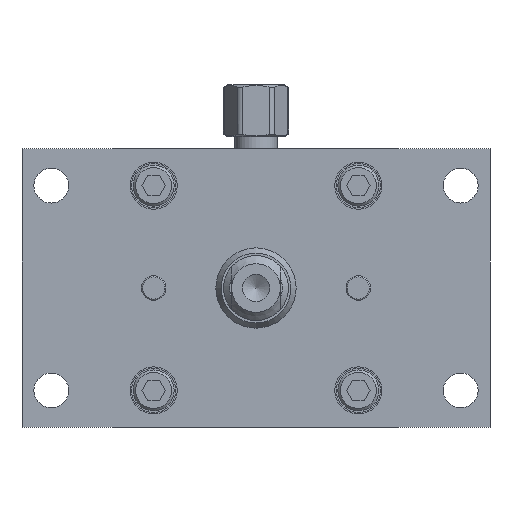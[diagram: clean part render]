
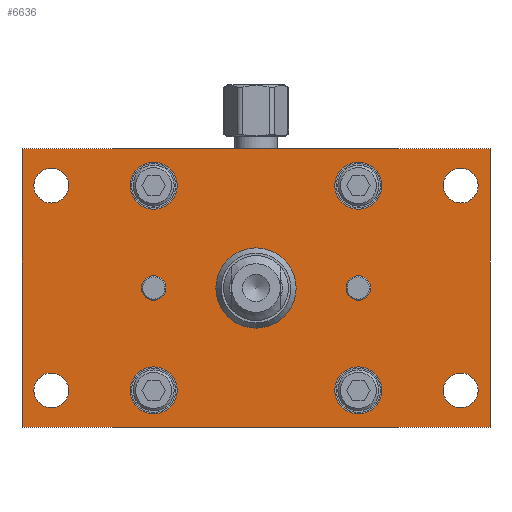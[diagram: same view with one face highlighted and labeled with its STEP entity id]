
A CAD part, front view. The second image highlights one B-rep face of the part: STEP entity #6636.
In plain terms, the highlighted planar face has unit normal (0, -1, 0) as drawn and (0, 0, -1) by its records, which use the part's own axes.
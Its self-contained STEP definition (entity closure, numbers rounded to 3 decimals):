
#196=FACE_BOUND('',#2335,.T.);
#197=FACE_BOUND('',#2336,.T.);
#198=FACE_BOUND('',#2337,.T.);
#199=FACE_BOUND('',#2338,.T.);
#200=FACE_BOUND('',#2339,.T.);
#201=FACE_BOUND('',#2340,.T.);
#202=FACE_BOUND('',#2341,.T.);
#203=FACE_BOUND('',#2342,.T.);
#204=FACE_BOUND('',#2343,.T.);
#205=FACE_BOUND('',#2344,.T.);
#206=FACE_BOUND('',#2345,.T.);
#562=PLANE('',#7546);
#966=LINE('',#11415,#1454);
#969=LINE('',#11420,#1457);
#971=LINE('',#11424,#1459);
#973=LINE('',#11427,#1461);
#1454=VECTOR('',#9154,10.);
#1457=VECTOR('',#9159,10.);
#1459=VECTOR('',#9163,10.);
#1461=VECTOR('',#9167,10.);
#1938=FACE_OUTER_BOUND('',#2334,.T.);
#2334=EDGE_LOOP('',(#5719,#5720,#5721,#5722));
#2335=EDGE_LOOP('',(#5723));
#2336=EDGE_LOOP('',(#5724,#5725));
#2337=EDGE_LOOP('',(#5726,#5727));
#2338=EDGE_LOOP('',(#5728,#5729));
#2339=EDGE_LOOP('',(#5730,#5731));
#2340=EDGE_LOOP('',(#5732,#5733));
#2341=EDGE_LOOP('',(#5734,#5735));
#2342=EDGE_LOOP('',(#5736,#5737));
#2343=EDGE_LOOP('',(#5738,#5739));
#2344=EDGE_LOOP('',(#5740,#5741));
#2345=EDGE_LOOP('',(#5742,#5743));
#2664=CIRCLE('',#7436,9.804);
#2701=CIRCLE('',#7487,3.);
#2702=CIRCLE('',#7488,3.);
#2703=CIRCLE('',#7490,3.);
#2704=CIRCLE('',#7491,3.);
#2705=CIRCLE('',#7493,4.25);
#2706=CIRCLE('',#7494,4.25);
#2707=CIRCLE('',#7496,4.25);
#2708=CIRCLE('',#7497,4.25);
#2709=CIRCLE('',#7499,4.25);
#2710=CIRCLE('',#7500,4.25);
#2711=CIRCLE('',#7502,4.25);
#2712=CIRCLE('',#7503,4.25);
#2718=CIRCLE('',#7514,5.75);
#2719=CIRCLE('',#7515,5.75);
#2723=CIRCLE('',#7522,5.75);
#2724=CIRCLE('',#7523,5.75);
#2728=CIRCLE('',#7530,5.75);
#2729=CIRCLE('',#7531,5.75);
#2733=CIRCLE('',#7538,5.75);
#2734=CIRCLE('',#7539,5.75);
#3254=VERTEX_POINT('',#11208);
#3293=VERTEX_POINT('',#11308);
#3294=VERTEX_POINT('',#11309);
#3295=VERTEX_POINT('',#11314);
#3296=VERTEX_POINT('',#11315);
#3297=VERTEX_POINT('',#11320);
#3298=VERTEX_POINT('',#11321);
#3299=VERTEX_POINT('',#11326);
#3300=VERTEX_POINT('',#11327);
#3301=VERTEX_POINT('',#11332);
#3302=VERTEX_POINT('',#11333);
#3303=VERTEX_POINT('',#11338);
#3304=VERTEX_POINT('',#11339);
#3310=VERTEX_POINT('',#11360);
#3311=VERTEX_POINT('',#11361);
#3315=VERTEX_POINT('',#11375);
#3316=VERTEX_POINT('',#11376);
#3320=VERTEX_POINT('',#11390);
#3321=VERTEX_POINT('',#11391);
#3325=VERTEX_POINT('',#11405);
#3326=VERTEX_POINT('',#11406);
#3327=VERTEX_POINT('',#11413);
#3328=VERTEX_POINT('',#11414);
#3329=VERTEX_POINT('',#11419);
#3330=VERTEX_POINT('',#11423);
#4083=EDGE_CURVE('',#3254,#3254,#2664,.T.);
#4130=EDGE_CURVE('',#3293,#3294,#2701,.T.);
#4131=EDGE_CURVE('',#3294,#3293,#2702,.T.);
#4133=EDGE_CURVE('',#3295,#3296,#2703,.T.);
#4134=EDGE_CURVE('',#3296,#3295,#2704,.T.);
#4136=EDGE_CURVE('',#3297,#3298,#2705,.T.);
#4137=EDGE_CURVE('',#3298,#3297,#2706,.T.);
#4139=EDGE_CURVE('',#3299,#3300,#2707,.T.);
#4140=EDGE_CURVE('',#3300,#3299,#2708,.T.);
#4142=EDGE_CURVE('',#3301,#3302,#2709,.T.);
#4143=EDGE_CURVE('',#3302,#3301,#2710,.T.);
#4145=EDGE_CURVE('',#3303,#3304,#2711,.T.);
#4146=EDGE_CURVE('',#3304,#3303,#2712,.T.);
#4155=EDGE_CURVE('',#3310,#3311,#2718,.T.);
#4156=EDGE_CURVE('',#3311,#3310,#2719,.T.);
#4162=EDGE_CURVE('',#3315,#3316,#2723,.T.);
#4163=EDGE_CURVE('',#3316,#3315,#2724,.T.);
#4169=EDGE_CURVE('',#3320,#3321,#2728,.T.);
#4170=EDGE_CURVE('',#3321,#3320,#2729,.T.);
#4176=EDGE_CURVE('',#3325,#3326,#2733,.T.);
#4177=EDGE_CURVE('',#3326,#3325,#2734,.T.);
#4180=EDGE_CURVE('',#3327,#3328,#966,.T.);
#4183=EDGE_CURVE('',#3329,#3327,#969,.T.);
#4185=EDGE_CURVE('',#3330,#3329,#971,.T.);
#4187=EDGE_CURVE('',#3328,#3330,#973,.T.);
#5719=ORIENTED_EDGE('',*,*,#4187,.F.);
#5720=ORIENTED_EDGE('',*,*,#4180,.F.);
#5721=ORIENTED_EDGE('',*,*,#4183,.F.);
#5722=ORIENTED_EDGE('',*,*,#4185,.F.);
#5723=ORIENTED_EDGE('',*,*,#4083,.T.);
#5724=ORIENTED_EDGE('',*,*,#4130,.T.);
#5725=ORIENTED_EDGE('',*,*,#4131,.T.);
#5726=ORIENTED_EDGE('',*,*,#4133,.T.);
#5727=ORIENTED_EDGE('',*,*,#4134,.T.);
#5728=ORIENTED_EDGE('',*,*,#4136,.T.);
#5729=ORIENTED_EDGE('',*,*,#4137,.T.);
#5730=ORIENTED_EDGE('',*,*,#4139,.T.);
#5731=ORIENTED_EDGE('',*,*,#4140,.T.);
#5732=ORIENTED_EDGE('',*,*,#4142,.T.);
#5733=ORIENTED_EDGE('',*,*,#4143,.T.);
#5734=ORIENTED_EDGE('',*,*,#4145,.T.);
#5735=ORIENTED_EDGE('',*,*,#4146,.T.);
#5736=ORIENTED_EDGE('',*,*,#4155,.T.);
#5737=ORIENTED_EDGE('',*,*,#4156,.T.);
#5738=ORIENTED_EDGE('',*,*,#4162,.T.);
#5739=ORIENTED_EDGE('',*,*,#4163,.T.);
#5740=ORIENTED_EDGE('',*,*,#4169,.T.);
#5741=ORIENTED_EDGE('',*,*,#4170,.T.);
#5742=ORIENTED_EDGE('',*,*,#4176,.T.);
#5743=ORIENTED_EDGE('',*,*,#4177,.T.);
#6636=ADVANCED_FACE('',(#1938,#196,#197,#198,#199,#200,#201,#202,#203,#204,
#205,#206),#562,.F.);
#7436=AXIS2_PLACEMENT_3D('',#11209,#8916,#8917);
#7487=AXIS2_PLACEMENT_3D('',#11310,#9028,#9029);
#7488=AXIS2_PLACEMENT_3D('',#11311,#9030,#9031);
#7490=AXIS2_PLACEMENT_3D('',#11316,#9035,#9036);
#7491=AXIS2_PLACEMENT_3D('',#11317,#9037,#9038);
#7493=AXIS2_PLACEMENT_3D('',#11322,#9042,#9043);
#7494=AXIS2_PLACEMENT_3D('',#11323,#9044,#9045);
#7496=AXIS2_PLACEMENT_3D('',#11328,#9049,#9050);
#7497=AXIS2_PLACEMENT_3D('',#11329,#9051,#9052);
#7499=AXIS2_PLACEMENT_3D('',#11334,#9056,#9057);
#7500=AXIS2_PLACEMENT_3D('',#11335,#9058,#9059);
#7502=AXIS2_PLACEMENT_3D('',#11340,#9063,#9064);
#7503=AXIS2_PLACEMENT_3D('',#11341,#9065,#9066);
#7514=AXIS2_PLACEMENT_3D('',#11362,#9090,#9091);
#7515=AXIS2_PLACEMENT_3D('',#11363,#9092,#9093);
#7522=AXIS2_PLACEMENT_3D('',#11377,#9108,#9109);
#7523=AXIS2_PLACEMENT_3D('',#11378,#9110,#9111);
#7530=AXIS2_PLACEMENT_3D('',#11392,#9126,#9127);
#7531=AXIS2_PLACEMENT_3D('',#11393,#9128,#9129);
#7538=AXIS2_PLACEMENT_3D('',#11407,#9144,#9145);
#7539=AXIS2_PLACEMENT_3D('',#11408,#9146,#9147);
#7546=AXIS2_PLACEMENT_3D('',#11429,#9170,#9171);
#8916=DIRECTION('center_axis',(0.,0.,1.));
#8917=DIRECTION('ref_axis',(1.,0.,0.));
#9028=DIRECTION('center_axis',(0.,0.,1.));
#9029=DIRECTION('ref_axis',(-1.,0.,0.));
#9030=DIRECTION('center_axis',(0.,0.,1.));
#9031=DIRECTION('ref_axis',(-1.,0.,0.));
#9035=DIRECTION('center_axis',(0.,0.,1.));
#9036=DIRECTION('ref_axis',(-1.,0.,0.));
#9037=DIRECTION('center_axis',(0.,0.,1.));
#9038=DIRECTION('ref_axis',(-1.,0.,0.));
#9042=DIRECTION('center_axis',(0.,0.,1.));
#9043=DIRECTION('ref_axis',(-1.,0.,0.));
#9044=DIRECTION('center_axis',(0.,0.,1.));
#9045=DIRECTION('ref_axis',(-1.,0.,0.));
#9049=DIRECTION('center_axis',(0.,0.,1.));
#9050=DIRECTION('ref_axis',(-1.,0.,0.));
#9051=DIRECTION('center_axis',(0.,0.,1.));
#9052=DIRECTION('ref_axis',(-1.,0.,0.));
#9056=DIRECTION('center_axis',(0.,0.,1.));
#9057=DIRECTION('ref_axis',(-1.,0.,0.));
#9058=DIRECTION('center_axis',(0.,0.,1.));
#9059=DIRECTION('ref_axis',(-1.,0.,0.));
#9063=DIRECTION('center_axis',(0.,0.,1.));
#9064=DIRECTION('ref_axis',(-1.,0.,0.));
#9065=DIRECTION('center_axis',(0.,0.,1.));
#9066=DIRECTION('ref_axis',(-1.,0.,0.));
#9090=DIRECTION('center_axis',(0.,0.,1.));
#9091=DIRECTION('ref_axis',(-1.,0.,0.));
#9092=DIRECTION('center_axis',(0.,0.,1.));
#9093=DIRECTION('ref_axis',(-1.,0.,0.));
#9108=DIRECTION('center_axis',(0.,0.,1.));
#9109=DIRECTION('ref_axis',(-1.,0.,0.));
#9110=DIRECTION('center_axis',(0.,0.,1.));
#9111=DIRECTION('ref_axis',(-1.,0.,0.));
#9126=DIRECTION('center_axis',(0.,0.,1.));
#9127=DIRECTION('ref_axis',(-1.,0.,0.));
#9128=DIRECTION('center_axis',(0.,0.,1.));
#9129=DIRECTION('ref_axis',(-1.,0.,0.));
#9144=DIRECTION('center_axis',(0.,0.,1.));
#9145=DIRECTION('ref_axis',(-1.,0.,0.));
#9146=DIRECTION('center_axis',(0.,0.,1.));
#9147=DIRECTION('ref_axis',(-1.,0.,0.));
#9154=DIRECTION('',(-1.,0.,0.));
#9159=DIRECTION('',(0.,1.,0.));
#9163=DIRECTION('',(1.,0.,0.));
#9167=DIRECTION('',(0.,-1.,0.));
#9170=DIRECTION('center_axis',(0.,0.,1.));
#9171=DIRECTION('ref_axis',(1.,0.,0.));
#11208=CARTESIAN_POINT('',(-9.804,0.,0.));
#11209=CARTESIAN_POINT('Origin',(0.,0.,0.));
#11308=CARTESIAN_POINT('',(-28.,0.,0.));
#11309=CARTESIAN_POINT('',(-22.,0.,0.));
#11310=CARTESIAN_POINT('Origin',(-25.,0.,0.));
#11311=CARTESIAN_POINT('Origin',(-25.,0.,0.));
#11314=CARTESIAN_POINT('',(22.,0.,0.));
#11315=CARTESIAN_POINT('',(28.,0.,0.));
#11316=CARTESIAN_POINT('Origin',(25.,0.,0.));
#11317=CARTESIAN_POINT('Origin',(25.,0.,0.));
#11320=CARTESIAN_POINT('',(45.75,25.,0.));
#11321=CARTESIAN_POINT('',(54.25,25.,0.));
#11322=CARTESIAN_POINT('Origin',(50.,25.,0.));
#11323=CARTESIAN_POINT('Origin',(50.,25.,0.));
#11326=CARTESIAN_POINT('',(-54.25,-25.,0.));
#11327=CARTESIAN_POINT('',(-45.75,-25.,0.));
#11328=CARTESIAN_POINT('Origin',(-50.,-25.,0.));
#11329=CARTESIAN_POINT('Origin',(-50.,-25.,0.));
#11332=CARTESIAN_POINT('',(-54.25,25.,0.));
#11333=CARTESIAN_POINT('',(-45.75,25.,0.));
#11334=CARTESIAN_POINT('Origin',(-50.,25.,0.));
#11335=CARTESIAN_POINT('Origin',(-50.,25.,0.));
#11338=CARTESIAN_POINT('',(45.75,-25.,0.));
#11339=CARTESIAN_POINT('',(54.25,-25.,0.));
#11340=CARTESIAN_POINT('Origin',(50.,-25.,0.));
#11341=CARTESIAN_POINT('Origin',(50.,-25.,0.));
#11360=CARTESIAN_POINT('',(19.25,25.,0.));
#11361=CARTESIAN_POINT('',(30.75,25.,0.));
#11362=CARTESIAN_POINT('Origin',(25.,25.,0.));
#11363=CARTESIAN_POINT('Origin',(25.,25.,0.));
#11375=CARTESIAN_POINT('',(-30.75,-25.,0.));
#11376=CARTESIAN_POINT('',(-19.25,-25.,0.));
#11377=CARTESIAN_POINT('Origin',(-25.,-25.,0.));
#11378=CARTESIAN_POINT('Origin',(-25.,-25.,0.));
#11390=CARTESIAN_POINT('',(19.25,-25.,0.));
#11391=CARTESIAN_POINT('',(30.75,-25.,0.));
#11392=CARTESIAN_POINT('Origin',(25.,-25.,0.));
#11393=CARTESIAN_POINT('Origin',(25.,-25.,0.));
#11405=CARTESIAN_POINT('',(-30.75,25.,0.));
#11406=CARTESIAN_POINT('',(-19.25,25.,0.));
#11407=CARTESIAN_POINT('Origin',(-25.,25.,0.));
#11408=CARTESIAN_POINT('Origin',(-25.,25.,0.));
#11413=CARTESIAN_POINT('',(57.15,34.,0.));
#11414=CARTESIAN_POINT('',(-57.15,34.,0.));
#11415=CARTESIAN_POINT('',(57.15,34.,0.));
#11419=CARTESIAN_POINT('',(57.15,-34.,0.));
#11420=CARTESIAN_POINT('',(57.15,-34.,0.));
#11423=CARTESIAN_POINT('',(-57.15,-34.,0.));
#11424=CARTESIAN_POINT('',(-57.15,-34.,0.));
#11427=CARTESIAN_POINT('',(-57.15,34.,0.));
#11429=CARTESIAN_POINT('Origin',(0.,0.,
0.));
